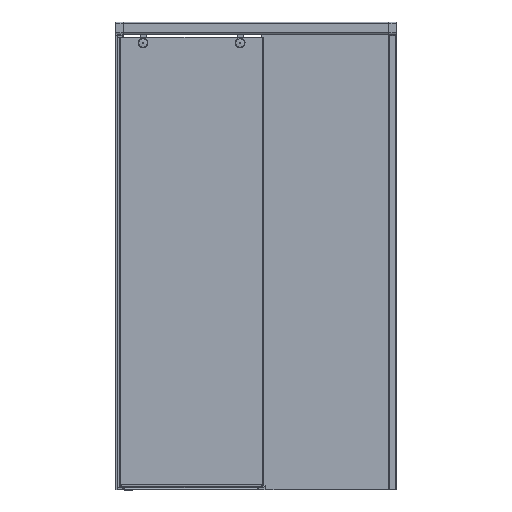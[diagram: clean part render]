
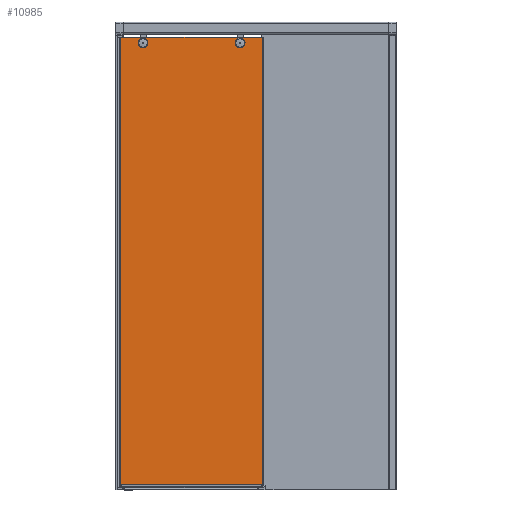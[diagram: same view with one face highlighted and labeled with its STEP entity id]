
A CAD part, left-side view. The second image highlights one B-rep face of the part: STEP entity #10985.
In plain terms, the highlighted planar face has unit normal (-1, 0, 0).
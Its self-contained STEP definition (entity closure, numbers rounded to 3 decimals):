
#273=FACE_BOUND($,#1084,.T.);
#274=FACE_BOUND($,#1085,.T.);
#275=FACE_BOUND($,#1086,.T.);
#1084=EDGE_LOOP($,(#7355));
#1085=EDGE_LOOP($,(#7356));
#1086=EDGE_LOOP($,(#7357,#7358,#7359,#7360));
#1564=CIRCLE($,#11463,18.5);
#1584=CIRCLE($,#11500,18.5);
#2075=LINE($,#16188,#3179);
#2143=LINE($,#16566,#3247);
#2144=LINE($,#16568,#3248);
#2145=LINE($,#16569,#3249);
#3179=VECTOR($,#12911,610.3);
#3247=VECTOR($,#13123,1914.4);
#3248=VECTOR($,#13124,610.3);
#3249=VECTOR($,#13125,1914.4);
#4169=VERTEX_POINT($,#15623);
#4198=VERTEX_POINT($,#15789);
#4333=VERTEX_POINT($,#16185);
#4334=VERTEX_POINT($,#16187);
#4415=VERTEX_POINT($,#16565);
#4416=VERTEX_POINT($,#16567);
#5223=EDGE_CURVE($,#4169,#4169,#1564,.T.);
#5261=EDGE_CURVE($,#4198,#4198,#1584,.T.);
#5440=EDGE_CURVE($,#4333,#4334,#2075,.T.);
#5559=EDGE_CURVE($,#4333,#4415,#2143,.T.);
#5560=EDGE_CURVE($,#4416,#4415,#2144,.T.);
#5561=EDGE_CURVE($,#4334,#4416,#2145,.T.);
#7355=ORIENTED_EDGE($,*,*,#5223,.T.);
#7356=ORIENTED_EDGE($,*,*,#5261,.T.);
#7357=ORIENTED_EDGE($,*,*,#5440,.F.);
#7358=ORIENTED_EDGE($,*,*,#5559,.T.);
#7359=ORIENTED_EDGE($,*,*,#5560,.F.);
#7360=ORIENTED_EDGE($,*,*,#5561,.F.);
#10021=PLANE($,#11685);
#10985=ADVANCED_FACE($,(#273,#274,#275),#10021,.T.);
#11463=AXIS2_PLACEMENT_3D($,#15624,#12481,#12482);
#11500=AXIS2_PLACEMENT_3D($,#15790,#12569,#12570);
#11685=AXIS2_PLACEMENT_3D($,#16564,#13121,#13122);
#12481=DIRECTION('center_axis',(1.,0.,0.));
#12482=DIRECTION('ref_axis',(0.,0.899,-0.437));
#12569=DIRECTION('center_axis',(1.,0.,0.));
#12570=DIRECTION('ref_axis',(0.,0.899,-0.437));
#12911=DIRECTION($,(0.,1.,0.));
#13121=DIRECTION('center_axis',(-1.,0.,0.));
#13122=DIRECTION('ref_axis',(0.,-1.,0.));
#13123=DIRECTION($,(0.,0.,1.));
#13124=DIRECTION($,(0.,-1.,0.));
#13125=DIRECTION($,(0.,0.,1.));
#15623=CARTESIAN_POINT('',(834.286,563.85,1929.892));
#15624=CARTESIAN_POINT('Origin',(834.286,580.486,1921.8));
#15789=CARTESIAN_POINT('',(834.286,148.85,1929.892));
#15790=CARTESIAN_POINT('Origin',(834.286,165.486,1921.8));
#16185=CARTESIAN_POINT('',(834.286,70.186,32.4));
#16187=CARTESIAN_POINT('',(834.286,680.486,32.4));
#16188=CARTESIAN_POINT($,(834.286,65.486,32.4));
#16564=CARTESIAN_POINT('Origin',(834.286,680.486,21.8));
#16565=CARTESIAN_POINT('',(834.286,70.186,1946.8));
#16566=CARTESIAN_POINT($,(834.286,70.186,984.3));
#16567=CARTESIAN_POINT('',(834.286,680.486,1946.8));
#16568=CARTESIAN_POINT($,(834.286,680.486,1946.8));
#16569=CARTESIAN_POINT($,(834.286,680.486,21.8));
